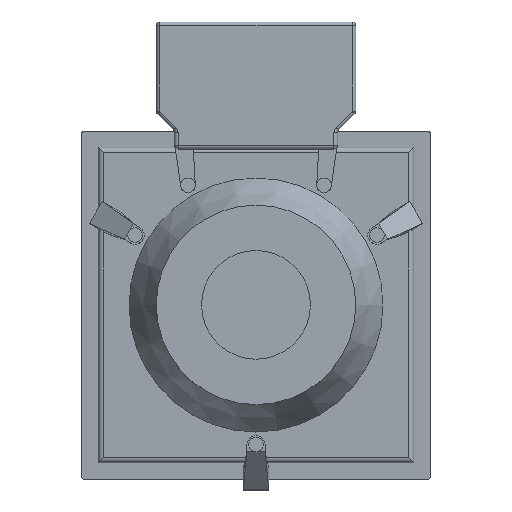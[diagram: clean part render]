
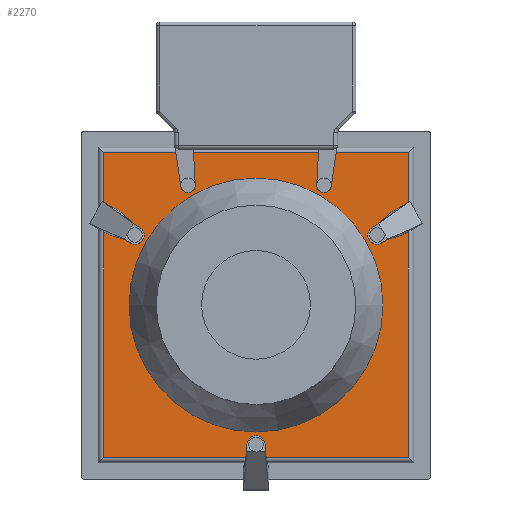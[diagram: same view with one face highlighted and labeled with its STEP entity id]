
A CAD part, top view. The second image highlights one B-rep face of the part: STEP entity #2270.
In plain terms, the highlighted planar face has unit normal (0, 0, 1).
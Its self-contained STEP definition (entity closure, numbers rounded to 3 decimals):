
#180=FACE_BOUND('',#427,.T.);
#181=FACE_BOUND('',#428,.T.);
#182=FACE_BOUND('',#429,.T.);
#183=FACE_BOUND('',#430,.T.);
#184=FACE_BOUND('',#431,.T.);
#185=FACE_BOUND('',#432,.T.);
#199=PLANE('',#2445);
#284=FACE_OUTER_BOUND('',#426,.T.);
#426=EDGE_LOOP('',(#1668,#1669,#1670,#1671));
#427=EDGE_LOOP('',(#1672));
#428=EDGE_LOOP('',(#1673));
#429=EDGE_LOOP('',(#1674));
#430=EDGE_LOOP('',(#1675));
#431=EDGE_LOOP('',(#1676));
#432=EDGE_LOOP('',(#1677));
#586=LINE('',#3408,#801);
#588=LINE('',#3415,#803);
#589=LINE('',#3419,#804);
#591=LINE('',#3423,#806);
#801=VECTOR('',#2720,10.);
#803=VECTOR('',#2728,10.);
#804=VECTOR('',#2733,10.);
#806=VECTOR('',#2739,10.);
#995=CIRCLE('',#2446,70.);
#996=CIRCLE('',#2447,4.);
#997=CIRCLE('',#2448,4.);
#998=CIRCLE('',#2449,4.);
#999=CIRCLE('',#2450,4.);
#1000=CIRCLE('',#2451,4.);
#1106=VERTEX_POINT('',#3406);
#1107=VERTEX_POINT('',#3407);
#1109=VERTEX_POINT('',#3414);
#1110=VERTEX_POINT('',#3418);
#1111=VERTEX_POINT('',#3428);
#1112=VERTEX_POINT('',#3430);
#1113=VERTEX_POINT('',#3432);
#1114=VERTEX_POINT('',#3434);
#1115=VERTEX_POINT('',#3436);
#1116=VERTEX_POINT('',#3438);
#1302=EDGE_CURVE('',#1106,#1107,#586,.T.);
#1306=EDGE_CURVE('',#1107,#1109,#588,.T.);
#1308=EDGE_CURVE('',#1109,#1110,#589,.T.);
#1311=EDGE_CURVE('',#1110,#1106,#591,.T.);
#1313=EDGE_CURVE('',#1111,#1111,#995,.T.);
#1314=EDGE_CURVE('',#1112,#1112,#996,.T.);
#1315=EDGE_CURVE('',#1113,#1113,#997,.T.);
#1316=EDGE_CURVE('',#1114,#1114,#998,.T.);
#1317=EDGE_CURVE('',#1115,#1115,#999,.T.);
#1318=EDGE_CURVE('',#1116,#1116,#1000,.T.);
#1668=ORIENTED_EDGE('',*,*,#1302,.F.);
#1669=ORIENTED_EDGE('',*,*,#1311,.F.);
#1670=ORIENTED_EDGE('',*,*,#1308,.F.);
#1671=ORIENTED_EDGE('',*,*,#1306,.F.);
#1672=ORIENTED_EDGE('',*,*,#1313,.F.);
#1673=ORIENTED_EDGE('',*,*,#1314,.T.);
#1674=ORIENTED_EDGE('',*,*,#1315,.T.);
#1675=ORIENTED_EDGE('',*,*,#1316,.T.);
#1676=ORIENTED_EDGE('',*,*,#1317,.T.);
#1677=ORIENTED_EDGE('',*,*,#1318,.T.);
#2270=ADVANCED_FACE('',(#284,#180,#181,#182,#183,#184,#185),#199,.T.);
#2445=AXIS2_PLACEMENT_3D('',#3427,#2745,#2746);
#2446=AXIS2_PLACEMENT_3D('',#3429,#2747,#2748);
#2447=AXIS2_PLACEMENT_3D('',#3431,#2749,#2750);
#2448=AXIS2_PLACEMENT_3D('',#3433,#2751,#2752);
#2449=AXIS2_PLACEMENT_3D('',#3435,#2753,#2754);
#2450=AXIS2_PLACEMENT_3D('',#3437,#2755,#2756);
#2451=AXIS2_PLACEMENT_3D('',#3439,#2757,#2758);
#2720=DIRECTION('',(1.,0.,0.));
#2728=DIRECTION('',(0.,-1.,0.));
#2733=DIRECTION('',(-1.,0.,0.));
#2739=DIRECTION('',(0.,1.,0.));
#2745=DIRECTION('center_axis',(0.,0.,1.));
#2746=DIRECTION('ref_axis',(1.,0.,0.));
#2747=DIRECTION('center_axis',(0.,0.,1.));
#2748=DIRECTION('ref_axis',(-1.,0.,0.));
#2749=DIRECTION('center_axis',(0.,0.,-1.));
#2750=DIRECTION('ref_axis',(1.,0.,0.));
#2751=DIRECTION('center_axis',(0.,0.,-1.));
#2752=DIRECTION('ref_axis',(-0.5,0.866,0.));
#2753=DIRECTION('center_axis',(0.,0.,-1.));
#2754=DIRECTION('ref_axis',(-0.5,-0.866,0.));
#2755=DIRECTION('center_axis',(0.,0.,-1.));
#2756=DIRECTION('ref_axis',(1.,0.,0.));
#2757=DIRECTION('center_axis',(0.,0.,-1.));
#2758=DIRECTION('ref_axis',(1.,0.,0.));
#3406=CARTESIAN_POINT('',(-84.,84.,22.));
#3407=CARTESIAN_POINT('',(84.,84.,22.));
#3408=CARTESIAN_POINT('',(43.5,84.,22.));
#3414=CARTESIAN_POINT('',(84.,-84.,22.));
#3415=CARTESIAN_POINT('',(84.,-43.5,22.));
#3418=CARTESIAN_POINT('',(-84.,-84.,22.));
#3419=CARTESIAN_POINT('',(-43.5,-84.,22.));
#3423=CARTESIAN_POINT('',(-84.,43.5,22.));
#3427=CARTESIAN_POINT('Origin',(0.,0.,22.));
#3428=CARTESIAN_POINT('',(70.,0.,22.));
#3429=CARTESIAN_POINT('Origin',(0.,0.,22.));
#3430=CARTESIAN_POINT('',(-4.,-77.,22.));
#3431=CARTESIAN_POINT('Origin',(0.,-77.,22.));
#3432=CARTESIAN_POINT('',(68.684,35.036,22.));
#3433=CARTESIAN_POINT('Origin',(66.684,38.5,22.));
#3434=CARTESIAN_POINT('',(-64.684,41.964,22.));
#3435=CARTESIAN_POINT('Origin',(-66.684,38.5,22.));
#3436=CARTESIAN_POINT('',(-41.5,66.,22.));
#3437=CARTESIAN_POINT('Origin',(-37.5,66.,22.));
#3438=CARTESIAN_POINT('',(33.5,66.,22.));
#3439=CARTESIAN_POINT('Origin',(37.5,66.,22.));
